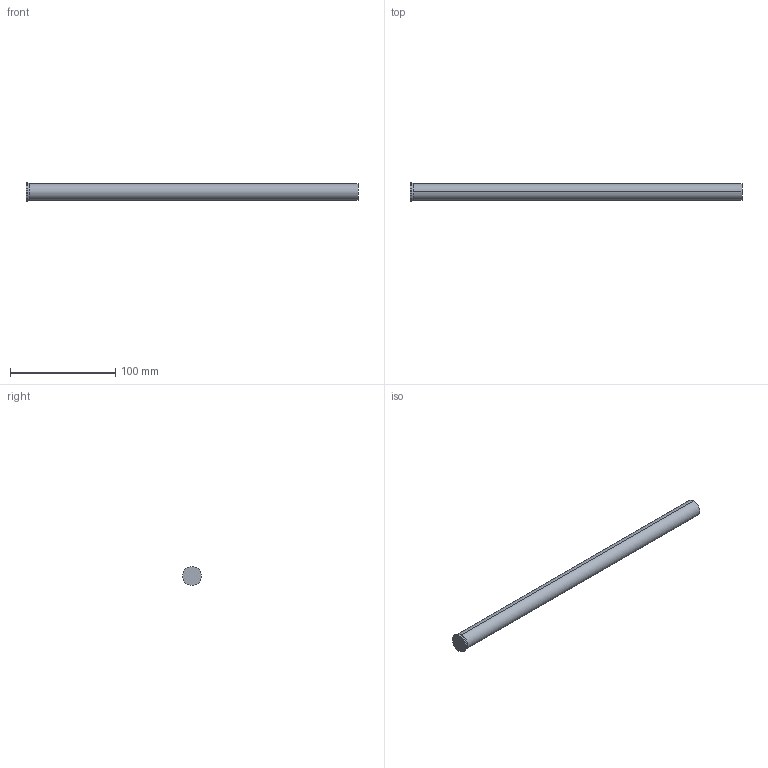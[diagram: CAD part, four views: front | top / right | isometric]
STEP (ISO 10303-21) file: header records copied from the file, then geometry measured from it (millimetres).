
FILE_DESCRIPTION (( 'STEP AP214' ), '1' );
FILE_NAME ('D-16x315.STEP', '2020-06-08T17:32:42', ( 'August' ), ( '' ), 'SwSTEP 2.0', 'SolidWorks 2018', '' );
FILE_SCHEMA (( 'AUTOMOTIVE_DESIGN' ));
Length unit declared in the file: millimetre
Products named in the file (1): D-16x315
Bounding box: 315 x 18 x 18 mm (x, y, z)
Volume: 63460.2 mm3; surface area: 16317.7 mm2
Topology: 1 solids, 1 shells, 10 faces, 18 edges, 10 vertices
Faces by surface type: cylinder 4, torus 2, cone 2, plane 2
Entity records: 280 total; most frequent: DIRECTION 52, CARTESIAN_POINT 39, ORIENTED_EDGE 36, AXIS2_PLACEMENT_3D 23, EDGE_CURVE 18, CIRCLE 12, VERTEX_POINT 10, EDGE_LOOP 10
